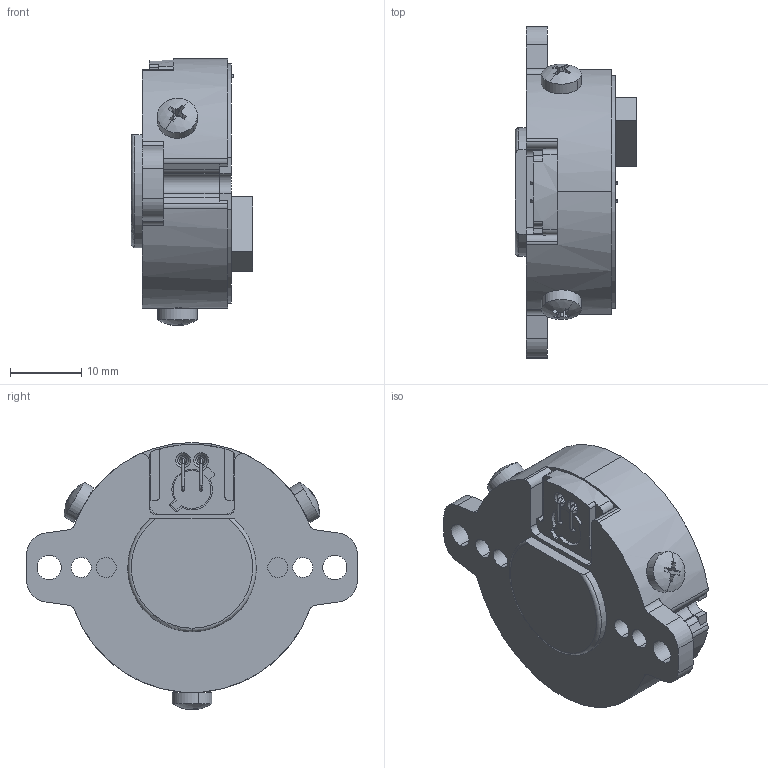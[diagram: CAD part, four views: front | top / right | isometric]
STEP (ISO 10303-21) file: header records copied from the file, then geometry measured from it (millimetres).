
FILE_DESCRIPTION (( 'STEP AP203' ), '1' );
FILE_NAME ('【整机】46分体光电编码器.STEP', '2022-05-04T05:46:37', ( '' ), ( '' ), 'SwSTEP 2.0', 'SolidWorks 2016', '' );
FILE_SCHEMA (( 'CONFIG_CONTROL_DESIGN' ));
Length unit declared in the file: millimetre
Products named in the file (1): 【整机】46分体光电编码器
Bounding box: 16.99 x 46.48 x 37.38 mm (x, y, z)
Surface area: 8889.9 mm2 (no closed solid volume)
Topology: 0 solids, 11 shells, 454 faces, 1218 edges, 787 vertices
Faces by surface type: cylinder 195, plane 152, cone 53, bspline 30, torus 16, sphere 8
Entity records: 15843 total; most frequent: CARTESIAN_POINT 4412, DIRECTION 2415, ORIENTED_EDGE 2401, EDGE_CURVE 1218, AXIS2_PLACEMENT_3D 956, VERTEX_POINT 787, CIRCLE 531, VECTOR 503
